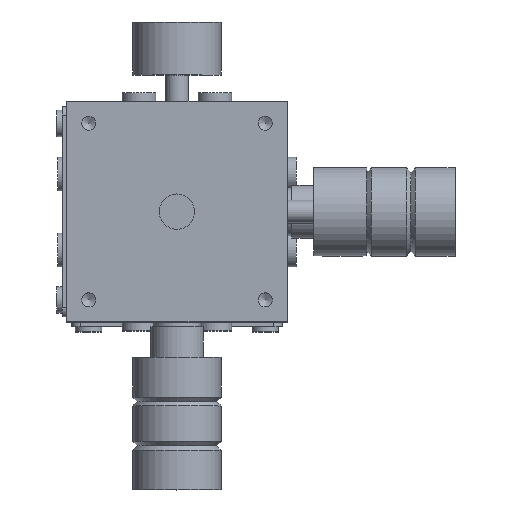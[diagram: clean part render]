
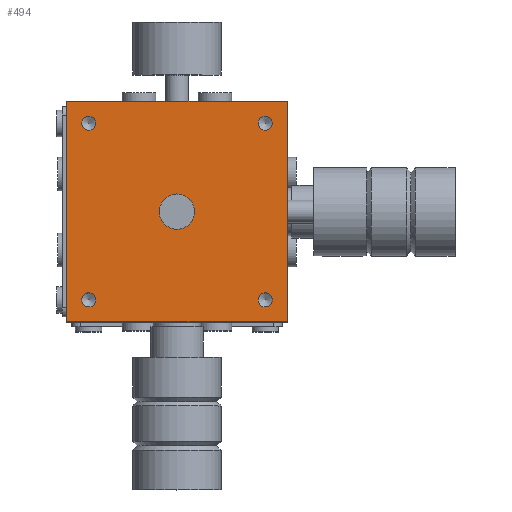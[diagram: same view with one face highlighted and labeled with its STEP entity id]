
A CAD part, top view. The second image highlights one B-rep face of the part: STEP entity #494.
In plain terms, the highlighted planar face has unit normal (0, 0, 1).
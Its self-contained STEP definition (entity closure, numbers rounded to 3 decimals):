
#494 = ADVANCED_FACE( '', ( #1014, #1015, #1016, #1017, #1018, #1019 ), #1020, .T. );
#1014 = FACE_BOUND( '', #1640, .T. );
#1015 = FACE_BOUND( '', #1641, .T. );
#1016 = FACE_BOUND( '', #1642, .T. );
#1017 = FACE_BOUND( '', #1643, .T. );
#1018 = FACE_OUTER_BOUND( '', #1644, .T. );
#1019 = FACE_BOUND( '', #1645, .T. );
#1020 = PLANE( '', #1646 );
#1640 = EDGE_LOOP( '', ( #3090 ) );
#1641 = EDGE_LOOP( '', ( #3091 ) );
#1642 = EDGE_LOOP( '', ( #3092 ) );
#1643 = EDGE_LOOP( '', ( #3093 ) );
#1644 = EDGE_LOOP( '', ( #3094, #3095, #3096, #3097 ) );
#1645 = EDGE_LOOP( '', ( #3098 ) );
#1646 = AXIS2_PLACEMENT_3D( '', #3099, #3100, #3101 );
#3090 = ORIENTED_EDGE( '', *, *, #3812, .T. );
#3091 = ORIENTED_EDGE( '', *, *, #3813, .T. );
#3092 = ORIENTED_EDGE( '', *, *, #3814, .T. );
#3093 = ORIENTED_EDGE( '', *, *, #3815, .T. );
#3094 = ORIENTED_EDGE( '', *, *, #3787, .F. );
#3095 = ORIENTED_EDGE( '', *, *, #3816, .F. );
#3096 = ORIENTED_EDGE( '', *, *, #3817, .F. );
#3097 = ORIENTED_EDGE( '', *, *, #3802, .F. );
#3098 = ORIENTED_EDGE( '', *, *, #3818, .T. );
#3099 = CARTESIAN_POINT( '', ( 0., 0., 30. ) );
#3100 = DIRECTION( '', ( 0., 0., 1. ) );
#3101 = DIRECTION( '', ( 1., 0., 0. ) );
#3787 = EDGE_CURVE( '', #4508, #4510, #4511, .T. );
#3802 = EDGE_CURVE( '', #4510, #4538, #4539, .T. );
#3812 = EDGE_CURVE( '', #4555, #4555, #4556, .T. );
#3813 = EDGE_CURVE( '', #4557, #4557, #4558, .T. );
#3814 = EDGE_CURVE( '', #4559, #4559, #4560, .T. );
#3815 = EDGE_CURVE( '', #4561, #4561, #4562, .T. );
#3816 = EDGE_CURVE( '', #4563, #4508, #4564, .T. );
#3817 = EDGE_CURVE( '', #4538, #4563, #4565, .T. );
#3818 = EDGE_CURVE( '', #4566, #4566, #4567, .T. );
#4508 = VERTEX_POINT( '', #6067 );
#4510 = VERTEX_POINT( '', #6070 );
#4511 = LINE( '', #6071, #6072 );
#4538 = VERTEX_POINT( '', #6118 );
#4539 = LINE( '', #6119, #6120 );
#4555 = VERTEX_POINT( '', #6148 );
#4556 = CIRCLE( '', #6149, 0.8 );
#4557 = VERTEX_POINT( '', #6150 );
#4558 = CIRCLE( '', #6151, 0.8 );
#4559 = VERTEX_POINT( '', #6152 );
#4560 = CIRCLE( '', #6153, 0.8 );
#4561 = VERTEX_POINT( '', #6154 );
#4562 = CIRCLE( '', #6155, 0.8 );
#4563 = VERTEX_POINT( '', #6156 );
#4564 = LINE( '', #6157, #6158 );
#4565 = LINE( '', #6159, #6160 );
#4566 = VERTEX_POINT( '', #6161 );
#4567 = CIRCLE( '', #6162, 2. );
#6067 = CARTESIAN_POINT( '', ( -12.5, -12.5, 30. ) );
#6070 = CARTESIAN_POINT( '', ( -12.5, 12.5, 30. ) );
#6071 = CARTESIAN_POINT( '', ( -12.5, 0., 30. ) );
#6072 = VECTOR( '', #6883, 1000. );
#6118 = CARTESIAN_POINT( '', ( 12.5, 12.5, 30. ) );
#6119 = CARTESIAN_POINT( '', ( 0., 12.5, 30. ) );
#6120 = VECTOR( '', #6900, 1000. );
#6148 = CARTESIAN_POINT( '', ( 10., -10.8, 30. ) );
#6149 = AXIS2_PLACEMENT_3D( '', #6913, #6914, #6915 );
#6150 = CARTESIAN_POINT( '', ( 10., 9.2, 30. ) );
#6151 = AXIS2_PLACEMENT_3D( '', #6916, #6917, #6918 );
#6152 = CARTESIAN_POINT( '', ( -10., 9.2, 30. ) );
#6153 = AXIS2_PLACEMENT_3D( '', #6919, #6920, #6921 );
#6154 = CARTESIAN_POINT( '', ( -10., -10.8, 30. ) );
#6155 = AXIS2_PLACEMENT_3D( '', #6922, #6923, #6924 );
#6156 = CARTESIAN_POINT( '', ( 12.5, -12.5, 30. ) );
#6157 = CARTESIAN_POINT( '', ( 0., -12.5, 30. ) );
#6158 = VECTOR( '', #6925, 1000. );
#6159 = CARTESIAN_POINT( '', ( 12.5, 0., 30. ) );
#6160 = VECTOR( '', #6926, 1000. );
#6161 = CARTESIAN_POINT( '', ( 2., 0., 30. ) );
#6162 = AXIS2_PLACEMENT_3D( '', #6927, #6928, #6929 );
#6883 = DIRECTION( '', ( 0., 1., 0. ) );
#6900 = DIRECTION( '', ( 1., 0., 0. ) );
#6913 = CARTESIAN_POINT( '', ( 10., -10., 30. ) );
#6914 = DIRECTION( '', ( 0., 0., -1. ) );
#6915 = DIRECTION( '', ( 0., -1., 0. ) );
#6916 = CARTESIAN_POINT( '', ( 10., 10., 30. ) );
#6917 = DIRECTION( '', ( 0., 0., -1. ) );
#6918 = DIRECTION( '', ( 0., -1., 0. ) );
#6919 = CARTESIAN_POINT( '', ( -10., 10., 30. ) );
#6920 = DIRECTION( '', ( 0., 0., -1. ) );
#6921 = DIRECTION( '', ( 0., -1., 0. ) );
#6922 = CARTESIAN_POINT( '', ( -10., -10., 30. ) );
#6923 = DIRECTION( '', ( 0., 0., -1. ) );
#6924 = DIRECTION( '', ( 0., -1., 0. ) );
#6925 = DIRECTION( '', ( -1., 0., 0. ) );
#6926 = DIRECTION( '', ( 0., -1., 0. ) );
#6927 = CARTESIAN_POINT( '', ( 0., 0., 30. ) );
#6928 = DIRECTION( '', ( 0., 0., -1. ) );
#6929 = DIRECTION( '', ( 1., 0., 0. ) );
